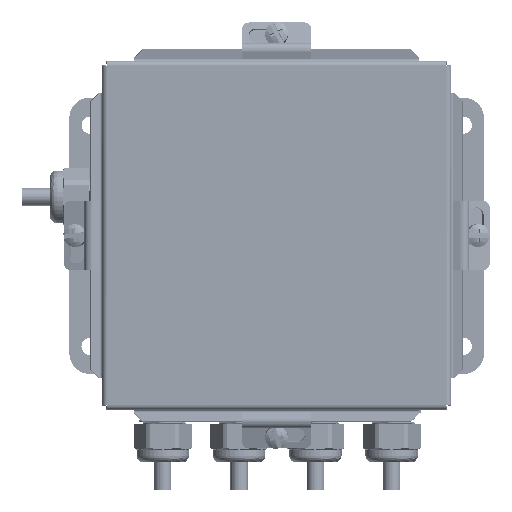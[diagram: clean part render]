
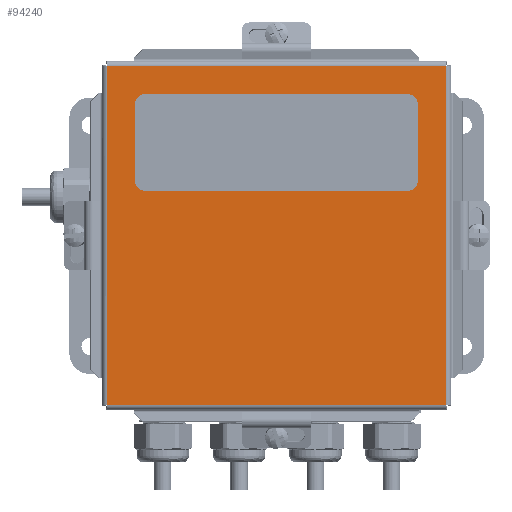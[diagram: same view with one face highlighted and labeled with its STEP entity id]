
A CAD part, top view. The second image highlights one B-rep face of the part: STEP entity #94240.
In plain terms, the highlighted planar face has unit normal (0, 0, 1) as drawn and (0, 0, -1) by its records, which use the part's own axes.
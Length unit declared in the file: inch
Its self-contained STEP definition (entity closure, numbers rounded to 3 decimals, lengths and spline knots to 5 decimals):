
#4273 = VECTOR ( 'NONE', #161816, 39.37008 ) ;
#12894 = VERTEX_POINT ( 'NONE', #210103 ) ;
#33765 = VECTOR ( 'NONE', #368890, 39.37008 ) ;
#65800 = DIRECTION ( 'NONE',  ( 1., 0., 0. ) ) ;
#86563 = CARTESIAN_POINT ( 'NONE',  ( 6.21625, 0.09375, 0. ) ) ;
#94240 = ADVANCED_FACE ( 'NONE', ( #297238 ), #184316, .F. ) ;
#99533 = CARTESIAN_POINT ( 'NONE',  ( 3.155, 3.155, 0. ) ) ;
#117063 = EDGE_LOOP ( 'NONE', ( #337292, #364097, #117448, #185032 ) ) ;
#117448 = ORIENTED_EDGE ( 'NONE', *, *, #218267, .T. ) ;
#120414 = CARTESIAN_POINT ( 'NONE',  ( 0.09375, 0.09375, 0. ) ) ;
#144987 = DIRECTION ( 'NONE',  ( 0., 1., 0. ) ) ;
#145614 = VECTOR ( 'NONE', #144987, 39.37008 ) ;
#161816 = DIRECTION ( 'NONE',  ( 0., -1., 0. ) ) ;
#184316 = PLANE ( 'NONE',  #261537 ) ;
#185032 = ORIENTED_EDGE ( 'NONE', *, *, #273040, .T. ) ;
#208172 = CARTESIAN_POINT ( 'NONE',  ( 0.09375, 6.21625, 0. ) ) ;
#210103 = CARTESIAN_POINT ( 'NONE',  ( 0.09375, 6.21625, 0. ) ) ;
#215401 = CARTESIAN_POINT ( 'NONE',  ( 6.21625, 6.21625, 0. ) ) ;
#215989 = CARTESIAN_POINT ( 'NONE',  ( 0.09375, 0.09375, 0. ) ) ;
#218267 = EDGE_CURVE ( 'NONE', #366456, #12894, #300560, .T. ) ;
#232694 = DIRECTION ( 'NONE',  ( 1., 0., 0. ) ) ;
#240715 = DIRECTION ( 'NONE',  ( 0., 0., 1. ) ) ;
#245637 = CARTESIAN_POINT ( 'NONE',  ( 6.21625, 0.09375, 0. ) ) ;
#248337 = LINE ( 'NONE', #361261, #4273 ) ;
#257230 = LINE ( 'NONE', #208172, #306955 ) ;
#259655 = LINE ( 'NONE', #86563, #33765 ) ;
#261537 = AXIS2_PLACEMENT_3D ( 'NONE', #99533, #240715, #65800 ) ;
#273040 = EDGE_CURVE ( 'NONE', #12894, #339009, #257230, .T. ) ;
#297238 = FACE_OUTER_BOUND ( 'NONE', #117063, .T. ) ;
#300560 = LINE ( 'NONE', #120414, #145614 ) ;
#306955 = VECTOR ( 'NONE', #232694, 39.37008 ) ;
#320443 = EDGE_CURVE ( 'NONE', #346466, #366456, #259655, .T. ) ;
#337292 = ORIENTED_EDGE ( 'NONE', *, *, #344976, .T. ) ;
#339009 = VERTEX_POINT ( 'NONE', #215401 ) ;
#344976 = EDGE_CURVE ( 'NONE', #339009, #346466, #248337, .T. ) ;
#346466 = VERTEX_POINT ( 'NONE', #245637 ) ;
#361261 = CARTESIAN_POINT ( 'NONE',  ( 6.21625, 6.21625, 0. ) ) ;
#364097 = ORIENTED_EDGE ( 'NONE', *, *, #320443, .T. ) ;
#366456 = VERTEX_POINT ( 'NONE', #215989 ) ;
#368890 = DIRECTION ( 'NONE',  ( -1., 0., 0. ) ) ;
